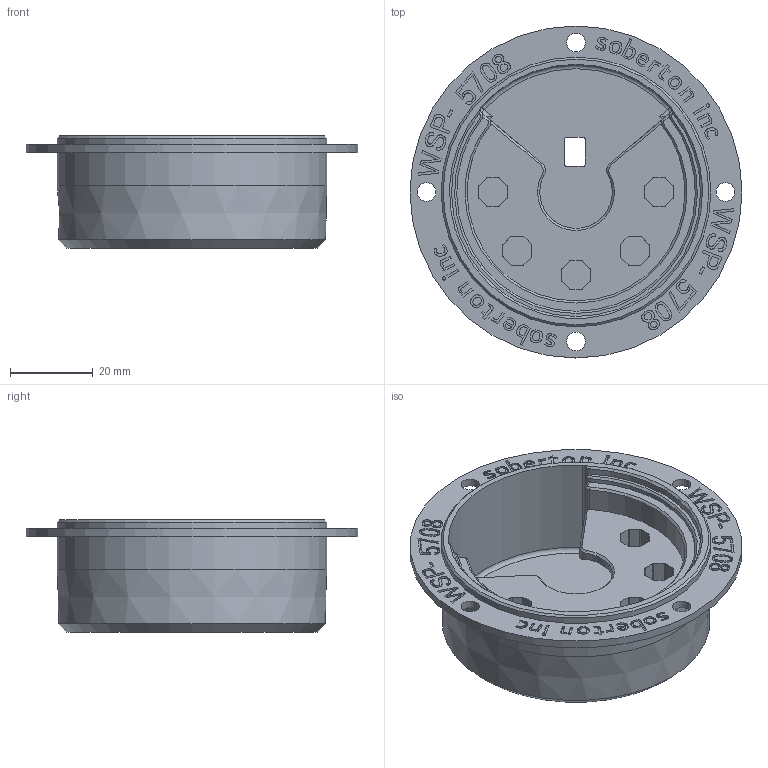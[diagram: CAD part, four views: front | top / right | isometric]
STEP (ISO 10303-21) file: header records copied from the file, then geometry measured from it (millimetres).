
FILE_DESCRIPTION(/* description */ ('Alibre Inc.'),/* implementation_level */ '2;1');
FILE_NAME(/* name */ 'export-B94F02D5-4611-4945-9295-69153729D346',/* time_stamp */ '2020-10-04T10:12:18-05:00',/* author */ (''),/* organization */ (''),/* preprocessor_version */ 'ST-DEVELOPER v17',/* originating_system */ 'Alibre',/* authorisation */ '');
FILE_SCHEMA (('AUTOMOTIVE_DESIGN'));
Length unit declared in the file: millimetre
Bounding box: 80 x 80 x 27 mm (x, y, z)
Volume: 39294.8 mm3; surface area: 22902.3 mm2
Topology: 1 solids, 1 shells, 1186 faces, 3277 edges, 2176 vertices
Faces by surface type: bspline 638, plane 422, cylinder 108, cone 15, sphere 2, torus 1
Full cylindrical faces by diameter (mm): 4.5 x4, 65 x2, 80 x1
Entity records: 39184 total; most frequent: CARTESIAN_POINT 13819, ORIENTED_EDGE 6530, EDGE_CURVE 3265, DIRECTION 2738, VERTEX_POINT 2176, VECTOR 1695, LINE 1695, B_SPLINE_CURVE_WITH_KNOTS 1371
